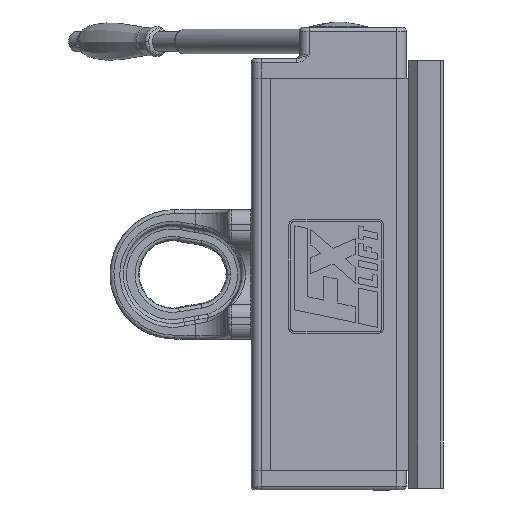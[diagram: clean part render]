
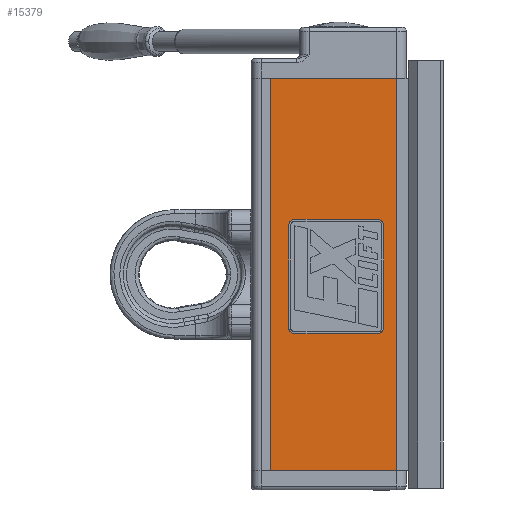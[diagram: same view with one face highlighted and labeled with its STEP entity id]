
A CAD part, left-side view. The second image highlights one B-rep face of the part: STEP entity #15379.
In plain terms, the highlighted planar face has unit normal (-1, 0, 0).
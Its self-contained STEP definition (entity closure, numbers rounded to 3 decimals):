
#1174 = CARTESIAN_POINT ( 'NONE',  ( -112.5, -39.684, -60.575 ) ) ;
#1800 = ORIENTED_EDGE ( 'NONE', *, *, #16975, .T. ) ;
#2055 = LINE ( 'NONE', #4049, #17207 ) ;
#2303 = CARTESIAN_POINT ( 'NONE',  ( -112.5, 0., -200. ) ) ;
#2751 = ORIENTED_EDGE ( 'NONE', *, *, #28665, .T. ) ;
#3316 = CARTESIAN_POINT ( 'NONE',  ( -112.5, 50.994, 49.534 ) ) ;
#3652 = B_SPLINE_CURVE_WITH_KNOTS ( 'NONE', 3,
 ( #8229, #26412, #5178, #11275 ),
 .UNSPECIFIED., .F., .F.,
 ( 4, 4 ),
 ( 0.778, 1. ),
 .UNSPECIFIED. ) ;
#3956 = EDGE_CURVE ( 'NONE', #16822, #17337, #3652, .T. ) ;
#3977 = CARTESIAN_POINT ( 'NONE',  ( -112.5, 50.994, 53.096 ) ) ;
#4049 = CARTESIAN_POINT ( 'NONE',  ( -112.5, 0., -60.575 ) ) ;
#4113 = ORIENTED_EDGE ( 'NONE', *, *, #16624, .T. ) ;
#4709 = CARTESIAN_POINT ( 'NONE',  ( -112.5, 44.517, -60.575 ) ) ;
#5178 = CARTESIAN_POINT ( 'NONE',  ( -112.5, 50.994, -57.661 ) ) ;
#5196 = VECTOR ( 'NONE', #33098, 1000. ) ;
#5344 = EDGE_CURVE ( 'NONE', #28288, #23015, #35902, .T. ) ;
#6531 = CARTESIAN_POINT ( 'NONE',  ( -112.5, 50.994, 0. ) ) ;
#7065 = CARTESIAN_POINT ( 'NONE',  ( -112.5, 48.08, 56.011 ) ) ;
#7132 = DIRECTION ( 'NONE',  ( 0., 1., 0. ) ) ;
#7474 = DIRECTION ( 'NONE',  ( 0., 1., 0. ) ) ;
#7607 = CARTESIAN_POINT ( 'NONE',  ( -112.5, 44.517, 56.011 ) ) ;
#7917 = EDGE_CURVE ( 'NONE', #25914, #16822, #2055, .T. ) ;
#7956 = ORIENTED_EDGE ( 'NONE', *, *, #20027, .T. ) ;
#8229 = CARTESIAN_POINT ( 'NONE',  ( -112.5, 44.517, -60.575 ) ) ;
#8442 = VECTOR ( 'NONE', #36776, 1000. ) ;
#8660 = ORIENTED_EDGE ( 'NONE', *, *, #38620, .T. ) ;
#8757 = VECTOR ( 'NONE', #17391, 1000. ) ;
#8826 = VERTEX_POINT ( 'NONE', #16225 ) ;
#8966 = DIRECTION ( 'NONE',  ( 0., -1., 0. ) ) ;
#9328 = CARTESIAN_POINT ( 'NONE',  ( -112.5, -43.246, 56.011 ) ) ;
#9442 = CARTESIAN_POINT ( 'NONE',  ( -112.5, 0., 200. ) ) ;
#9588 = DIRECTION ( 'NONE',  ( 0., 0., 1. ) ) ;
#9713 = LINE ( 'NONE', #2303, #8757 ) ;
#10106 = CARTESIAN_POINT ( 'NONE',  ( -112.5, -46.161, 53.096 ) ) ;
#10657 = VERTEX_POINT ( 'NONE', #13476 ) ;
#11275 = CARTESIAN_POINT ( 'NONE',  ( -112.5, 50.994, -54.099 ) ) ;
#11438 = FACE_BOUND ( 'NONE', #34512, .T. ) ;
#11675 = VECTOR ( 'NONE', #8966, 1000. ) ;
#11912 = CARTESIAN_POINT ( 'NONE',  ( -112.5, 69., 200. ) ) ;
#12174 = DIRECTION ( 'NONE',  ( 0., 0., -1. ) ) ;
#12471 = CARTESIAN_POINT ( 'NONE',  ( -112.5, -46.161, 49.534 ) ) ;
#12472 = EDGE_CURVE ( 'NONE', #8826, #25914, #30883, .T. ) ;
#13290 = LINE ( 'NONE', #17548, #5196 ) ;
#13309 = B_SPLINE_CURVE_WITH_KNOTS ( 'NONE', 3,
 ( #24675, #9328, #10106, #31341 ),
 .UNSPECIFIED., .F., .F.,
 ( 4, 4 ),
 ( 0.333, 0.444 ),
 .UNSPECIFIED. ) ;
#13476 = CARTESIAN_POINT ( 'NONE',  ( -112.5, -59.5, 200. ) ) ;
#13574 = VERTEX_POINT ( 'NONE', #38794 ) ;
#13808 = EDGE_CURVE ( 'NONE', #13574, #10657, #32681, .T. ) ;
#14628 = VECTOR ( 'NONE', #9588, 1000. ) ;
#15211 = CARTESIAN_POINT ( 'NONE',  ( -112.5, -39.684, -60.575 ) ) ;
#15379 = ADVANCED_FACE ( 'NONE', ( #29491, #11438 ), #37737, .F. ) ;
#16225 = CARTESIAN_POINT ( 'NONE',  ( -112.5, -46.161, -54.099 ) ) ;
#16624 = EDGE_CURVE ( 'NONE', #13574, #26814, #35140, .T. ) ;
#16822 = VERTEX_POINT ( 'NONE', #4709 ) ;
#16975 = EDGE_CURVE ( 'NONE', #39250, #8826, #13290, .T. ) ;
#17207 = VECTOR ( 'NONE', #7132, 1000. ) ;
#17337 = VERTEX_POINT ( 'NONE', #18673 ) ;
#17391 = DIRECTION ( 'NONE',  ( 0., -1., 0. ) ) ;
#17548 = CARTESIAN_POINT ( 'NONE',  ( -112.5, -46.161, 0. ) ) ;
#17680 = VECTOR ( 'NONE', #17796, 1000. ) ;
#17796 = DIRECTION ( 'NONE',  ( 0., 0., -1. ) ) ;
#17973 = ORIENTED_EDGE ( 'NONE', *, *, #13808, .F. ) ;
#18608 = CARTESIAN_POINT ( 'NONE',  ( -112.5, -59.5, -200. ) ) ;
#18673 = CARTESIAN_POINT ( 'NONE',  ( -112.5, 50.994, -54.099 ) ) ;
#18954 = VECTOR ( 'NONE', #12174, 1000. ) ;
#19298 = CARTESIAN_POINT ( 'NONE',  ( -112.5, -43.246, -60.575 ) ) ;
#19518 = CARTESIAN_POINT ( 'NONE',  ( -112.5, 0., 200. ) ) ;
#20027 = EDGE_CURVE ( 'NONE', #27329, #28288, #22109, .T. ) ;
#20215 = EDGE_LOOP ( 'NONE', ( #8660, #32842, #17973, #4113 ) ) ;
#20741 = ORIENTED_EDGE ( 'NONE', *, *, #34144, .T. ) ;
#21094 = VERTEX_POINT ( 'NONE', #18608 ) ;
#22109 = B_SPLINE_CURVE_WITH_KNOTS ( 'NONE', 3,
 ( #25212, #3977, #7065, #28281 ),
 .UNSPECIFIED., .F., .F.,
 ( 4, 4 ),
 ( 0.111, 0.222 ),
 .UNSPECIFIED. ) ;
#22483 = ORIENTED_EDGE ( 'NONE', *, *, #3956, .T. ) ;
#23015 = VERTEX_POINT ( 'NONE', #26467 ) ;
#24396 = EDGE_CURVE ( 'NONE', #10657, #21094, #33858, .T. ) ;
#24675 = CARTESIAN_POINT ( 'NONE',  ( -112.5, -39.684, 56.011 ) ) ;
#25212 = CARTESIAN_POINT ( 'NONE',  ( -112.5, 50.994, 49.534 ) ) ;
#25642 = DIRECTION ( 'NONE',  ( 1., 0., 0. ) ) ;
#25914 = VERTEX_POINT ( 'NONE', #15211 ) ;
#26412 = CARTESIAN_POINT ( 'NONE',  ( -112.5, 48.08, -60.575 ) ) ;
#26467 = CARTESIAN_POINT ( 'NONE',  ( -112.5, -39.684, 56.011 ) ) ;
#26814 = VERTEX_POINT ( 'NONE', #31079 ) ;
#27329 = VERTEX_POINT ( 'NONE', #3316 ) ;
#28114 = ORIENTED_EDGE ( 'NONE', *, *, #12472, .T. ) ;
#28281 = CARTESIAN_POINT ( 'NONE',  ( -112.5, 44.517, 56.011 ) ) ;
#28288 = VERTEX_POINT ( 'NONE', #7607 ) ;
#28359 = CARTESIAN_POINT ( 'NONE',  ( -112.5, -46.161, -54.099 ) ) ;
#28665 = EDGE_CURVE ( 'NONE', #17337, #27329, #30767, .T. ) ;
#29491 = FACE_OUTER_BOUND ( 'NONE', #20215, .T. ) ;
#30191 = CARTESIAN_POINT ( 'NONE',  ( -112.5, 0., 56.011 ) ) ;
#30767 = LINE ( 'NONE', #6531, #14628 ) ;
#30883 = B_SPLINE_CURVE_WITH_KNOTS ( 'NONE', 3,
 ( #28359, #31397, #19298, #1174 ),
 .UNSPECIFIED., .F., .F.,
 ( 4, 4 ),
 ( 0.556, 0.667 ),
 .UNSPECIFIED. ) ;
#31079 = CARTESIAN_POINT ( 'NONE',  ( -112.5, 69., -200. ) ) ;
#31341 = CARTESIAN_POINT ( 'NONE',  ( -112.5, -46.161, 49.534 ) ) ;
#31397 = CARTESIAN_POINT ( 'NONE',  ( -112.5, -46.161, -57.661 ) ) ;
#31702 = ORIENTED_EDGE ( 'NONE', *, *, #5344, .T. ) ;
#32681 = LINE ( 'NONE', #9442, #8442 ) ;
#32842 = ORIENTED_EDGE ( 'NONE', *, *, #24396, .F. ) ;
#33098 = DIRECTION ( 'NONE',  ( 0., 0., -1. ) ) ;
#33858 = LINE ( 'NONE', #38683, #17680 ) ;
#34144 = EDGE_CURVE ( 'NONE', #23015, #39250, #13309, .T. ) ;
#34512 = EDGE_LOOP ( 'NONE', ( #22483, #2751, #7956, #31702, #20741, #1800, #28114, #35608 ) ) ;
#35140 = LINE ( 'NONE', #11912, #18954 ) ;
#35244 = AXIS2_PLACEMENT_3D ( 'NONE', #19518, #25642, #7474 ) ;
#35608 = ORIENTED_EDGE ( 'NONE', *, *, #7917, .T. ) ;
#35902 = LINE ( 'NONE', #30191, #11675 ) ;
#36776 = DIRECTION ( 'NONE',  ( 0., -1., 0. ) ) ;
#37737 = PLANE ( 'NONE',  #35244 ) ;
#38620 = EDGE_CURVE ( 'NONE', #26814, #21094, #9713, .T. ) ;
#38683 = CARTESIAN_POINT ( 'NONE',  ( -112.5, -59.5, 200. ) ) ;
#38794 = CARTESIAN_POINT ( 'NONE',  ( -112.5, 69., 200. ) ) ;
#39250 = VERTEX_POINT ( 'NONE', #12471 ) ;
